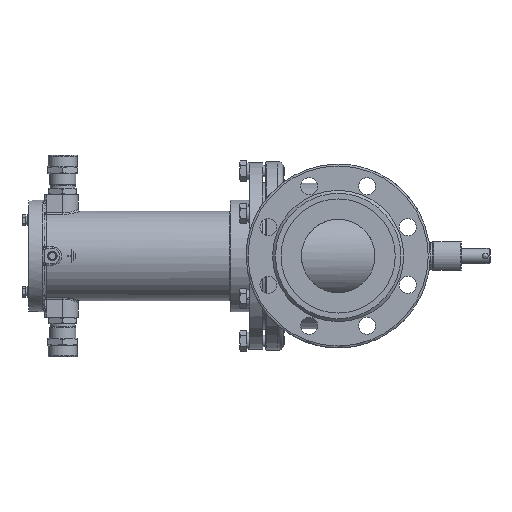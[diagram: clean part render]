
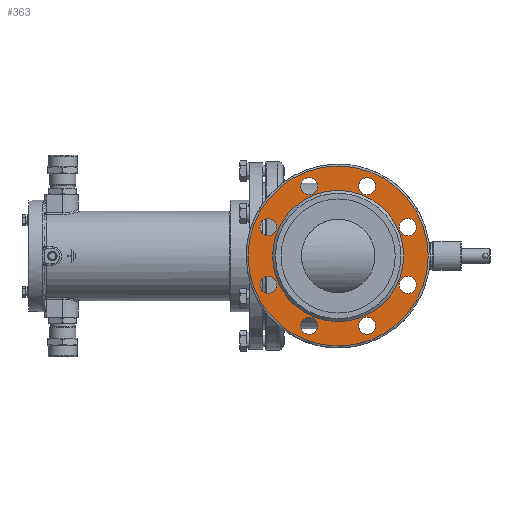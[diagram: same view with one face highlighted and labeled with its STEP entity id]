
A CAD part, left-side view. The second image highlights one B-rep face of the part: STEP entity #363.
In plain terms, the highlighted planar face has unit normal (-1, 0, 0).
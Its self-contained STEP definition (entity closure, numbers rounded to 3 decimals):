
#363=ADVANCED_FACE('',(#7644,#7646,#7648,#7650,#7652,#7654,#7656,#7658,#7660,#7662),
#7664,.T.);
#7644=FACE_BOUND('',#7645,.T.);
#7645=EDGE_LOOP('',(#23121));
#7646=FACE_BOUND('',#7647,.T.);
#7647=EDGE_LOOP('',(#23122));
#7648=FACE_BOUND('',#7649,.T.);
#7649=EDGE_LOOP('',(#23123));
#7650=FACE_BOUND('',#7651,.T.);
#7651=EDGE_LOOP('',(#23124));
#7652=FACE_BOUND('',#7653,.T.);
#7653=EDGE_LOOP('',(#23125));
#7654=FACE_BOUND('',#7655,.T.);
#7655=EDGE_LOOP('',(#23126));
#7656=FACE_BOUND('',#7657,.T.);
#7657=EDGE_LOOP('',(#23127));
#7658=FACE_BOUND('',#7659,.T.);
#7659=EDGE_LOOP('',(#23128));
#7660=FACE_BOUND('',#7661,.T.);
#7661=EDGE_LOOP('',(#23129));
#7662=FACE_OUTER_BOUND('',#7663,.T.);
#7663=EDGE_LOOP('',(#23130));
#7664=PLANE('',#7665);
#7665=AXIS2_PLACEMENT_3D('',#7666,#7667,#7668);
#7666=CARTESIAN_POINT('',(-151.,0.,0.));
#7667=DIRECTION('',(-1.,0.,0.));
#7668=DIRECTION('',(0.,1.,0.));
#23121=ORIENTED_EDGE('',*,*,#34663,.T.);
#23122=ORIENTED_EDGE('',*,*,#34661,.T.);
#23123=ORIENTED_EDGE('',*,*,#34659,.T.);
#23124=ORIENTED_EDGE('',*,*,#34657,.T.);
#23125=ORIENTED_EDGE('',*,*,#34655,.T.);
#23126=ORIENTED_EDGE('',*,*,#34653,.T.);
#23127=ORIENTED_EDGE('',*,*,#34651,.T.);
#23128=ORIENTED_EDGE('',*,*,#34649,.T.);
#23129=ORIENTED_EDGE('',*,*,#34691,.F.);
#23130=ORIENTED_EDGE('',*,*,#34692,.T.);
#34649=EDGE_CURVE('',#39957,#39957,#39959,.T.);
#34651=EDGE_CURVE('',#39960,#39960,#39962,.T.);
#34653=EDGE_CURVE('',#39963,#39963,#39965,.T.);
#34655=EDGE_CURVE('',#39966,#39966,#39968,.T.);
#34657=EDGE_CURVE('',#39969,#39969,#39971,.T.);
#34659=EDGE_CURVE('',#39972,#39972,#39974,.T.);
#34661=EDGE_CURVE('',#39975,#39975,#39977,.T.);
#34663=EDGE_CURVE('',#39978,#39978,#39980,.T.);
#34691=EDGE_CURVE('',#40025,#40025,#40026,.T.);
#34692=EDGE_CURVE('',#40027,#40027,#40028,.T.);
#39957=VERTEX_POINT('',#53738);
#39959=CIRCLE('',#53742,9.);
#39960=VERTEX_POINT('',#53746);
#39962=CIRCLE('',#53750,9.);
#39963=VERTEX_POINT('',#53754);
#39965=CIRCLE('',#53758,9.);
#39966=VERTEX_POINT('',#53762);
#39968=CIRCLE('',#53766,9.);
#39969=VERTEX_POINT('',#53770);
#39971=CIRCLE('',#53774,9.);
#39972=VERTEX_POINT('',#53778);
#39974=CIRCLE('',#53782,9.);
#39975=VERTEX_POINT('',#53786);
#39977=CIRCLE('',#53790,9.);
#39978=VERTEX_POINT('',#53794);
#39980=CIRCLE('',#53798,9.);
#40025=VERTEX_POINT('',#54118);
#40026=CIRCLE('',#54119,69.5);
#40027=VERTEX_POINT('',#54123);
#40028=CIRCLE('',#54124,95.5);
#53738=CARTESIAN_POINT('',(-151.,30.615,64.91));
#53742=AXIS2_PLACEMENT_3D('',#53743,#53744,#53745);
#53743=CARTESIAN_POINT('',(-151.,30.615,73.91));
#53744=DIRECTION('',(1.,0.,0.));
#53745=DIRECTION('',(0.,-1.,0.));
#53746=CARTESIAN_POINT('',(-151.,30.615,-82.91));
#53750=AXIS2_PLACEMENT_3D('',#53751,#53752,#53753);
#53751=CARTESIAN_POINT('',(-151.,30.615,-73.91));
#53752=DIRECTION('',(1.,0.,0.));
#53753=DIRECTION('',(0.,-1.,0.));
#53754=CARTESIAN_POINT('',(-151.,73.91,21.615));
#53758=AXIS2_PLACEMENT_3D('',#53759,#53760,#53761);
#53759=CARTESIAN_POINT('',(-151.,73.91,30.615));
#53760=DIRECTION('',(1.,0.,0.));
#53761=DIRECTION('',(0.,-1.,0.));
#53762=CARTESIAN_POINT('',(-151.,-30.615,-82.91));
#53766=AXIS2_PLACEMENT_3D('',#53767,#53768,#53769);
#53767=CARTESIAN_POINT('',(-151.,-30.615,-73.91));
#53768=DIRECTION('',(1.,0.,0.));
#53769=DIRECTION('',(0.,-1.,0.));
#53770=CARTESIAN_POINT('',(-151.,-73.91,21.615));
#53774=AXIS2_PLACEMENT_3D('',#53775,#53776,#53777);
#53775=CARTESIAN_POINT('',(-151.,-73.91,30.615));
#53776=DIRECTION('',(1.,0.,0.));
#53777=DIRECTION('',(0.,-1.,0.));
#53778=CARTESIAN_POINT('',(-151.,-30.615,64.91));
#53782=AXIS2_PLACEMENT_3D('',#53783,#53784,#53785);
#53783=CARTESIAN_POINT('',(-151.,-30.615,73.91));
#53784=DIRECTION('',(1.,0.,0.));
#53785=DIRECTION('',(0.,-1.,0.));
#53786=CARTESIAN_POINT('',(-151.,73.91,-39.615));
#53790=AXIS2_PLACEMENT_3D('',#53791,#53792,#53793);
#53791=CARTESIAN_POINT('',(-151.,73.91,-30.615));
#53792=DIRECTION('',(1.,0.,0.));
#53793=DIRECTION('',(0.,-1.,0.));
#53794=CARTESIAN_POINT('',(-151.,-73.91,-39.615));
#53798=AXIS2_PLACEMENT_3D('',#53799,#53800,#53801);
#53799=CARTESIAN_POINT('',(-151.,-73.91,-30.615));
#53800=DIRECTION('',(1.,0.,0.));
#53801=DIRECTION('',(0.,-1.,0.));
#54118=CARTESIAN_POINT('',(-151.,-69.5,0.));
#54119=AXIS2_PLACEMENT_3D('',#54120,#54121,#54122);
#54120=CARTESIAN_POINT('',(-151.,0.,0.));
#54121=DIRECTION('',(-1.,0.,0.));
#54122=DIRECTION('',(0.,1.,0.));
#54123=CARTESIAN_POINT('',(-151.,-95.5,0.));
#54124=AXIS2_PLACEMENT_3D('',#54125,#54126,#54127);
#54125=CARTESIAN_POINT('',(-151.,0.,0.));
#54126=DIRECTION('',(-1.,0.,0.));
#54127=DIRECTION('',(0.,1.,0.));
